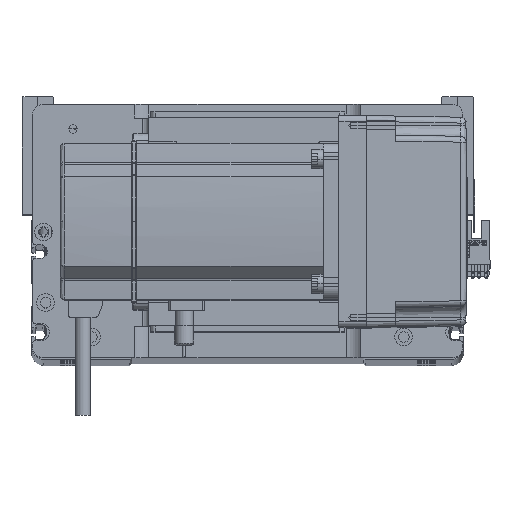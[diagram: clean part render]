
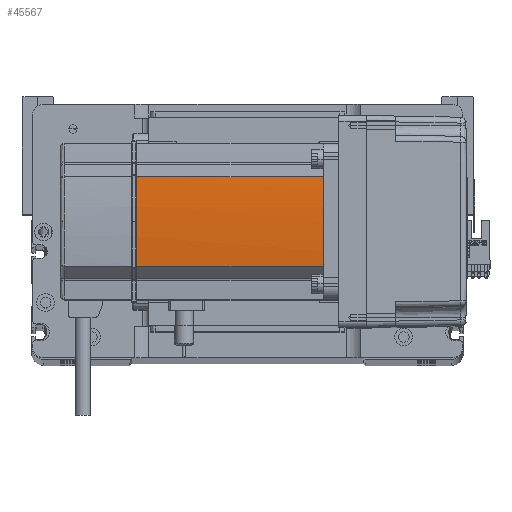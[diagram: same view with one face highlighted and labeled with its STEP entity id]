
A CAD part, top view. The second image highlights one B-rep face of the part: STEP entity #45567.
In plain terms, the highlighted cylindrical face has radius 270 mm (diameter 540 mm), a partial arc.
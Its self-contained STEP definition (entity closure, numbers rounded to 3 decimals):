
#511 = LINE ( 'NONE', #2550, #8386 ) ;
#614 = AXIS2_PLACEMENT_3D ( 'NONE', #22141, #35273, #14432 ) ;
#2550 = CARTESIAN_POINT ( 'NONE',  ( -39.042, -22.724, 0. ) ) ;
#3591 = CARTESIAN_POINT ( 'NONE',  ( -39.042, 22.724, 134. ) ) ;
#4989 = ORIENTED_EDGE ( 'NONE', *, *, #14148, .T. ) ;
#5173 = CARTESIAN_POINT ( 'NONE',  ( -39.042, -22.724, 39. ) ) ;
#7107 = VERTEX_POINT ( 'NONE', #35824 ) ;
#7541 = CARTESIAN_POINT ( 'NONE',  ( 230., 0., 39. ) ) ;
#8240 = VECTOR ( 'NONE', #20481, 1000. ) ;
#8386 = VECTOR ( 'NONE', #48806, 1000. ) ;
#12084 = ORIENTED_EDGE ( 'NONE', *, *, #18968, .T. ) ;
#12653 = CYLINDRICAL_SURFACE ( 'NONE', #614, 270. ) ;
#14148 = EDGE_CURVE ( 'NONE', #17491, #48902, #39014, .T. ) ;
#14432 = DIRECTION ( 'NONE',  ( 1., 0., 0. ) ) ;
#14552 = CARTESIAN_POINT ( 'NONE',  ( -40., 0., 134. ) ) ;
#16523 = DIRECTION ( 'NONE',  ( 0., 0., -1. ) ) ;
#17491 = VERTEX_POINT ( 'NONE', #14552 ) ;
#18872 = CARTESIAN_POINT ( 'NONE',  ( 230., 0., 134. ) ) ;
#18968 = EDGE_CURVE ( 'NONE', #7107, #17491, #19621, .T. ) ;
#19324 = AXIS2_PLACEMENT_3D ( 'NONE', #38104, #16523, #49909 ) ;
#19621 = CIRCLE ( 'NONE', #45756, 270. ) ;
#20481 = DIRECTION ( 'NONE',  ( 0., 0., -1. ) ) ;
#22141 = CARTESIAN_POINT ( 'NONE',  ( 230., 0., 0. ) ) ;
#24410 = FACE_OUTER_BOUND ( 'NONE', #27359, .T. ) ;
#24983 = CARTESIAN_POINT ( 'NONE',  ( -39.042, 22.724, 39. ) ) ;
#25549 = ORIENTED_EDGE ( 'NONE', *, *, #33979, .T. ) ;
#27359 = EDGE_LOOP ( 'NONE', ( #12084, #4989, #46664, #39943, #25549 ) ) ;
#28640 = DIRECTION ( 'NONE',  ( 1., 0., 0. ) ) ;
#33745 = CIRCLE ( 'NONE', #41797, 270. ) ;
#33979 = EDGE_CURVE ( 'NONE', #44251, #7107, #511, .T. ) ;
#35273 = DIRECTION ( 'NONE',  ( 0., 0., 1. ) ) ;
#35277 = EDGE_CURVE ( 'NONE', #48902, #49924, #44845, .T. ) ;
#35416 = EDGE_CURVE ( 'NONE', #44251, #49924, #33745, .T. ) ;
#35824 = CARTESIAN_POINT ( 'NONE',  ( -39.042, -22.724, 134. ) ) ;
#38104 = CARTESIAN_POINT ( 'NONE',  ( 230., 0., 134. ) ) ;
#39014 = CIRCLE ( 'NONE', #19324, 270. ) ;
#39536 = DIRECTION ( 'NONE',  ( 1., 0., 0. ) ) ;
#39943 = ORIENTED_EDGE ( 'NONE', *, *, #35416, .F. ) ;
#41361 = CARTESIAN_POINT ( 'NONE',  ( -39.042, 22.724, 0. ) ) ;
#41797 = AXIS2_PLACEMENT_3D ( 'NONE', #7541, #45227, #28640 ) ;
#43557 = DIRECTION ( 'NONE',  ( 0., 0., -1. ) ) ;
#44251 = VERTEX_POINT ( 'NONE', #5173 ) ;
#44845 = LINE ( 'NONE', #41361, #8240 ) ;
#45227 = DIRECTION ( 'NONE',  ( 0., 0., -1. ) ) ;
#45567 = ADVANCED_FACE ( 'NONE', ( #24410 ), #12653, .T. ) ;
#45756 = AXIS2_PLACEMENT_3D ( 'NONE', #18872, #43557, #39536 ) ;
#46664 = ORIENTED_EDGE ( 'NONE', *, *, #35277, .T. ) ;
#48806 = DIRECTION ( 'NONE',  ( 0., 0., 1. ) ) ;
#48902 = VERTEX_POINT ( 'NONE', #3591 ) ;
#49909 = DIRECTION ( 'NONE',  ( 1., 0., 0. ) ) ;
#49924 = VERTEX_POINT ( 'NONE', #24983 ) ;
